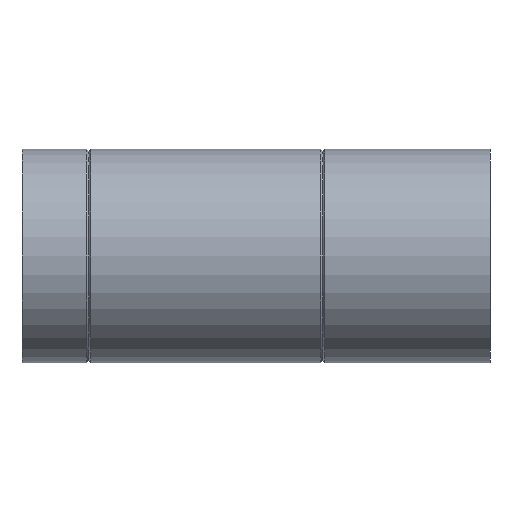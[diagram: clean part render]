
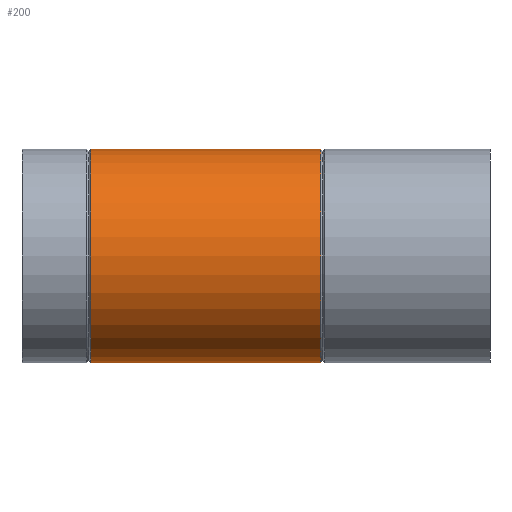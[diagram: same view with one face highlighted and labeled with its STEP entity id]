
A CAD part, left-side view. The second image highlights one B-rep face of the part: STEP entity #200.
In plain terms, the highlighted cylindrical face has radius 80 mm (diameter 160 mm), a full revolution.
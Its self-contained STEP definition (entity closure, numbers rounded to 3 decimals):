
#15=B_SPLINE_CURVE_WITH_KNOTS($,3,(#325,#326,#327,#328,#329,#330,#331,#332,
#333,#334,#335,#336,#337,#338,#339,#340,#341,#342,#343,#344,#345,#346,#347,
#348,#349,#350,#351,#352,#353,#354,#355,#356,#357,#358,#359,#360,#361,#362,
#363,#364,#365,#366,#367,#368,#369,#370,#371,#372,#373,#374,#375,#376,#377,
#378,#379,#380,#381,#382,#383,#384,#385,#386,#387,#388,#389,#390),
 .UNSPECIFIED.,.T.,.F.,(4,2,2,2,2,2,2,2,2,2,2,2,2,2,2,2,2,2,2,2,2,2,2,2,
2,2,2,2,2,2,2,2,4),(0.,1.216,2.432,3.649,
4.865,6.052,7.239,8.427,9.614,
10.798,11.981,13.165,14.349,15.569,
16.789,18.009,19.229,20.427,21.625,
22.823,24.021,25.204,26.387,27.57,
28.753,29.936,31.119,32.302,33.485,
34.683,35.881,37.079,38.277),
 .UNSPECIFIED.);
#17=CYLINDRICAL_SURFACE($,#222,80.);
#26=FACE_BOUND($,#63,.T.);
#27=FACE_BOUND($,#64,.T.);
#48=FACE_OUTER_BOUND($,#62,.T.);
#62=EDGE_LOOP($,(#145));
#63=EDGE_LOOP($,(#146));
#64=EDGE_LOOP($,(#147));
#94=CIRCLE($,#221,80.);
#95=CIRCLE($,#223,80.);
#109=VERTEX_POINT($,#319);
#110=VERTEX_POINT($,#322);
#111=VERTEX_POINT($,#324);
#126=EDGE_CURVE($,#109,#109,#94,.T.);
#127=EDGE_CURVE($,#110,#110,#95,.T.);
#128=EDGE_CURVE($,#111,#111,#15,.T.);
#145=ORIENTED_EDGE($,*,*,#127,.T.);
#146=ORIENTED_EDGE($,*,*,#128,.T.);
#147=ORIENTED_EDGE($,*,*,#126,.T.);
#200=ADVANCED_FACE($,(#48,#26,#27),#17,.T.);
#221=AXIS2_PLACEMENT_3D($,#320,#258,#259);
#222=AXIS2_PLACEMENT_3D($,#321,#260,#261);
#223=AXIS2_PLACEMENT_3D($,#323,#262,#263);
#258=DIRECTION('center_axis',(0.,-1.,0.));
#259=DIRECTION('ref_axis',(1.,0.,0.));
#260=DIRECTION('center_axis',(0.,1.,0.));
#261=DIRECTION('ref_axis',(1.,0.,0.));
#262=DIRECTION('center_axis',(0.,1.,0.));
#263=DIRECTION('ref_axis',(1.,0.,0.));
#319=CARTESIAN_POINT('',(80.,298.4,0.));
#320=CARTESIAN_POINT('Origin',(0.,298.4,0.));
#321=CARTESIAN_POINT('Origin',(0.,0.,0.));
#322=CARTESIAN_POINT('',(-80.,126.6,0.));
#323=CARTESIAN_POINT('Origin',(0.,126.6,0.));
#324=CARTESIAN_POINT('',(52.915,211.386,60.));
#325=CARTESIAN_POINT('Ctrl Pts',(52.915,211.386,60.));
#326=CARTESIAN_POINT('Ctrl Pts',(52.915,215.44,60.));
#327=CARTESIAN_POINT('Ctrl Pts',(53.394,219.508,59.586));
#328=CARTESIAN_POINT('Ctrl Pts',(55.144,227.438,57.97));
#329=CARTESIAN_POINT('Ctrl Pts',(56.407,231.303,56.77));
#330=CARTESIAN_POINT('Ctrl Pts',(59.352,238.65,53.683));
#331=CARTESIAN_POINT('Ctrl Pts',(61.032,242.139,51.795));
#332=CARTESIAN_POINT('Ctrl Pts',(64.454,248.599,47.469));
#333=CARTESIAN_POINT('Ctrl Pts',(66.195,251.57,45.03));
#334=CARTESIAN_POINT('Ctrl Pts',(69.413,256.801,39.885));
#335=CARTESIAN_POINT('Ctrl Pts',(71.019,259.27,36.996));
#336=CARTESIAN_POINT('Ctrl Pts',(73.987,263.691,30.63));
#337=CARTESIAN_POINT('Ctrl Pts',(75.349,265.644,27.154));
#338=CARTESIAN_POINT('Ctrl Pts',(77.606,268.831,19.801));
#339=CARTESIAN_POINT('Ctrl Pts',(78.503,270.067,15.917));
#340=CARTESIAN_POINT('Ctrl Pts',(79.7,271.71,7.995));
#341=CARTESIAN_POINT('Ctrl Pts',(80.,272.115,3.958));
#342=CARTESIAN_POINT('Ctrl Pts',(80.,272.115,-3.945));
#343=CARTESIAN_POINT('Ctrl Pts',(79.702,271.712,-7.97));
#344=CARTESIAN_POINT('Ctrl Pts',(78.512,270.079,-15.87));
#345=CARTESIAN_POINT('Ctrl Pts',(77.62,268.85,-19.745));
#346=CARTESIAN_POINT('Ctrl Pts',(75.375,265.681,-27.081));
#347=CARTESIAN_POINT('Ctrl Pts',(74.02,263.739,-30.55));
#348=CARTESIAN_POINT('Ctrl Pts',(71.065,259.34,-36.905));
#349=CARTESIAN_POINT('Ctrl Pts',(69.467,256.885,-39.791));
#350=CARTESIAN_POINT('Ctrl Pts',(66.251,251.665,-44.948));
#351=CARTESIAN_POINT('Ctrl Pts',(64.505,248.689,-47.401));
#352=CARTESIAN_POINT('Ctrl Pts',(61.07,242.217,-51.75));
#353=CARTESIAN_POINT('Ctrl Pts',(59.384,238.721,-53.649));
#354=CARTESIAN_POINT('Ctrl Pts',(56.426,231.358,-56.751));
#355=CARTESIAN_POINT('Ctrl Pts',(55.157,227.484,-57.958));
#356=CARTESIAN_POINT('Ctrl Pts',(53.397,219.532,-59.583));
#357=CARTESIAN_POINT('Ctrl Pts',(52.915,215.452,-60.));
#358=CARTESIAN_POINT('Ctrl Pts',(52.915,207.392,-60.));
#359=CARTESIAN_POINT('Ctrl Pts',(53.381,203.381,-59.597));
#360=CARTESIAN_POINT('Ctrl Pts',(55.109,195.574,-58.003));
#361=CARTESIAN_POINT('Ctrl Pts',(56.362,191.776,-56.814));
#362=CARTESIAN_POINT('Ctrl Pts',(59.297,184.578,-53.744));
#363=CARTESIAN_POINT('Ctrl Pts',(60.975,181.169,-51.861));
#364=CARTESIAN_POINT('Ctrl Pts',(64.397,174.874,-47.546));
#365=CARTESIAN_POINT('Ctrl Pts',(66.138,171.989,-45.112));
#366=CARTESIAN_POINT('Ctrl Pts',(69.373,166.894,-39.957));
#367=CARTESIAN_POINT('Ctrl Pts',(70.993,164.488,-37.047));
#368=CARTESIAN_POINT('Ctrl Pts',(73.981,160.191,-30.647));
#369=CARTESIAN_POINT('Ctrl Pts',(75.349,158.301,-27.155));
#370=CARTESIAN_POINT('Ctrl Pts',(77.612,155.226,-19.781));
#371=CARTESIAN_POINT('Ctrl Pts',(78.508,154.038,-15.891));
#372=CARTESIAN_POINT('Ctrl Pts',(79.702,152.462,-7.972));
#373=CARTESIAN_POINT('Ctrl Pts',(80.,152.074,-3.943));
#374=CARTESIAN_POINT('Ctrl Pts',(80.,152.074,3.943));
#375=CARTESIAN_POINT('Ctrl Pts',(79.702,152.462,7.972));
#376=CARTESIAN_POINT('Ctrl Pts',(78.508,154.038,15.891));
#377=CARTESIAN_POINT('Ctrl Pts',(77.612,155.226,19.781));
#378=CARTESIAN_POINT('Ctrl Pts',(75.349,158.301,27.155));
#379=CARTESIAN_POINT('Ctrl Pts',(73.981,160.191,30.647));
#380=CARTESIAN_POINT('Ctrl Pts',(70.993,164.488,37.047));
#381=CARTESIAN_POINT('Ctrl Pts',(69.373,166.894,39.957));
#382=CARTESIAN_POINT('Ctrl Pts',(66.138,171.989,45.112));
#383=CARTESIAN_POINT('Ctrl Pts',(64.397,174.874,47.546));
#384=CARTESIAN_POINT('Ctrl Pts',(60.975,181.169,51.861));
#385=CARTESIAN_POINT('Ctrl Pts',(59.297,184.578,53.744));
#386=CARTESIAN_POINT('Ctrl Pts',(56.362,191.776,56.814));
#387=CARTESIAN_POINT('Ctrl Pts',(55.109,195.574,58.003));
#388=CARTESIAN_POINT('Ctrl Pts',(53.381,203.381,59.597));
#389=CARTESIAN_POINT('Ctrl Pts',(52.915,207.392,60.));
#390=CARTESIAN_POINT('Ctrl Pts',(52.915,211.386,60.));
